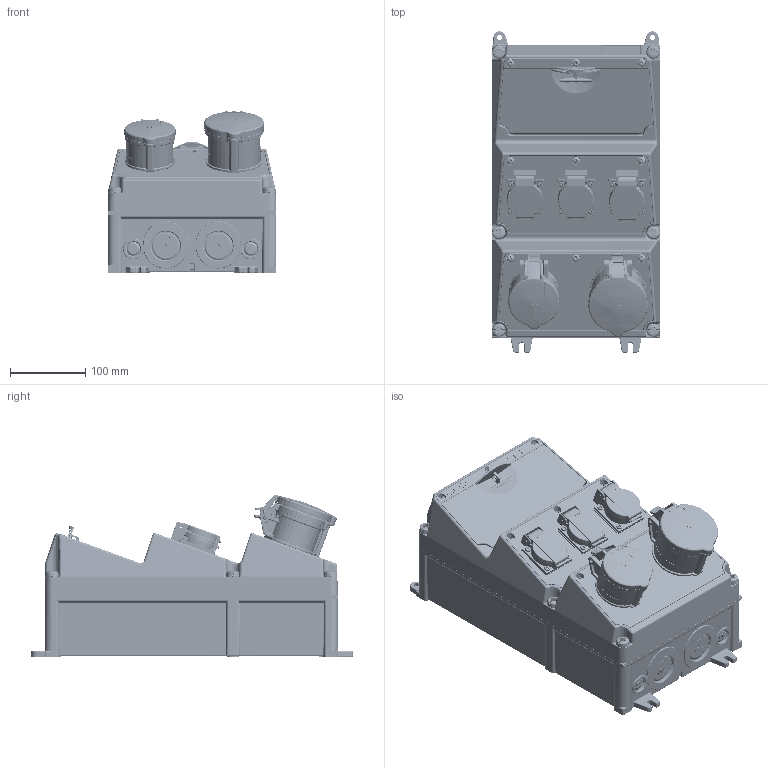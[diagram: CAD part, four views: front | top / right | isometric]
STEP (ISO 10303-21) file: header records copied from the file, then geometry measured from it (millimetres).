
FILE_DESCRIPTION((''),'2;1');
FILE_NAME('930298-2_ASM_1_ASM','2018-05-23T',('hoffmannf'),('MENNEKES'),'PRO/ENGINEER BY PARAMETRIC TECHNOLOGY CORPORATION, 2015440','PRO/ENGINEER BY PARAMETRIC TECHNOLOGY CORPORATION, 2015440','');
FILE_SCHEMA(('AUTOMOTIVE_DESIGN { 1 0 10303 214 1 1 1 1 }'));
Products named in the file (14): 3-4_SW_O_GRAU_1; MP_FEN10_44_OBEN_GRAU_1; MP_LEER_GRAU_1; MANIFOLD_SOLID_BREP_303568; MANIFOLD_SOLID_BREP_391931; MANIFOLD_SOLID_BREP_392268; MANIFOLD_SOLID_BREP_394747; FI_4POL_4TE_1_ASM; LS_3POL_3TE_1; AMAXX_CEE_32_5_44_ROT_1; SCHUKO_CH_T25_54_ROT_1; AMAXX_CEE_16_5_44_ROT_1; SCHUKO_CH_T23_54_BLAU_1; 930298-2_ASM_1_ASM
Assembly tree (16 placements, depth 3):
  930298-2_ASM_1_ASM
    3-4_SW_O_GRAU_1
    MP_FEN10_44_OBEN_GRAU_1
    MP_LEER_GRAU_1  x2
    FI_4POL_4TE_1_ASM
      MANIFOLD_SOLID_BREP_303568
      MANIFOLD_SOLID_BREP_391931
      MANIFOLD_SOLID_BREP_392268
      MANIFOLD_SOLID_BREP_394747
    LS_3POL_3TE_1  x2
    AMAXX_CEE_32_5_44_ROT_1
    SCHUKO_CH_T25_54_ROT_1
    AMAXX_CEE_16_5_44_ROT_1
    SCHUKO_CH_T23_54_BLAU_1  x2
Bounding box: 225 x 428.2 x 215.76 mm (x, y, z)
Volume: 9434136.7 mm3; surface area: 1079794.9 mm2
Topology: 15 solids, 15 shells, 12110 faces, 33386 edges, 21247 vertices
Faces by surface type: plane 5667, cylinder 3439, bspline 1112, torus 1072, cone 450, sphere 252, extrusion 118
Entity records: 499026 total; most frequent: CARTESIAN_POINT 144998, ORIENTED_EDGE 58896, DIRECTION 51594, EDGE_CURVE 29448, VERTEX_POINT 18794, AXIS2_PLACEMENT_3D 17868, PRESENTATION_STYLE_ASSIGNMENT 16374, VECTOR 15858
